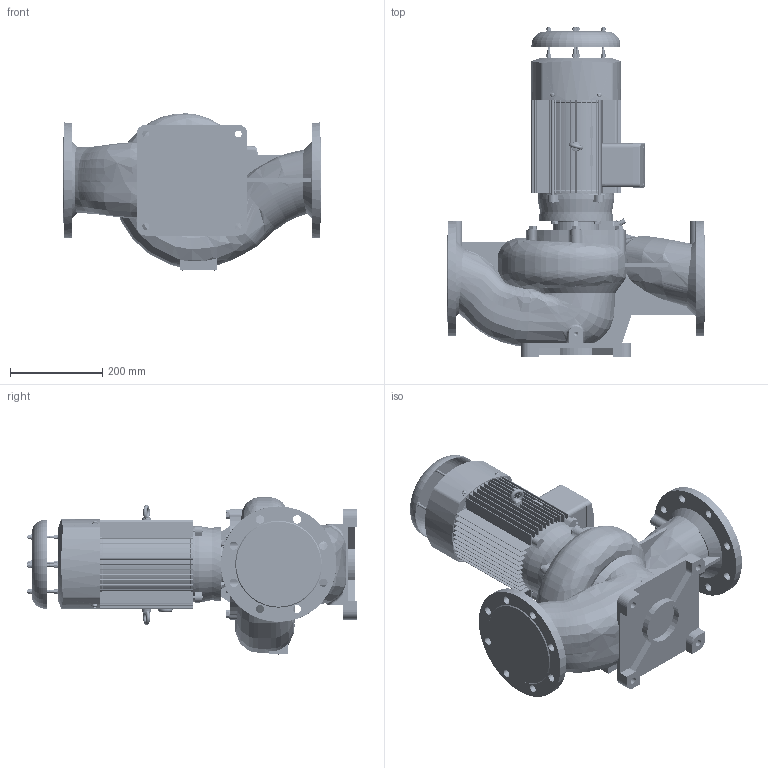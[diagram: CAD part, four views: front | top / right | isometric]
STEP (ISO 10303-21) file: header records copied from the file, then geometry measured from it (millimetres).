
FILE_DESCRIPTION (( 'STEP AP214' ), '1' );
FILE_NAME ('LLT125-5-4.STEP', '2020-08-28T01:13:40', ( 'cnp' ), ( '' ), 'SwSTEP 2.0', 'SolidWorks 2018', '' );
FILE_SCHEMA (( 'AUTOMOTIVE_DESIGN' ));
Length unit declared in the file: millimetre
Products named in the file (31): GB╱T 5783-2016[六角头螺栓 全螺纹M10×35]; YE3-100-IMV18 萇儂 滅迾欶; GB╱T 5783-2016[六角头螺栓 全螺纹M8×30]; LLT100掙芛; LLT125; 平垫圈8; LLT125-5-4; GB╱T 5783-2016[六角头螺栓 全螺纹M8×30]_M8×30; 平垫圈10; GB╱T 5783-2016[六角头螺栓 全螺纹M10×35]_M10×35
Assembly tree (23 placements, depth 2):
  GB╱T 5783-2016[六角头螺栓 全螺纹M10×35]
  YE3-100-IMV18 萇儂 滅迾欶
  GB╱T 5783-2016[六角头螺栓 全螺纹M8×30]
  LLT100掙芛
  GB╱T 5783-2016[六角头螺栓 全螺纹M8×30]
Bounding box: 560 x 714.96 x 340.67 mm (x, y, z)
Volume: 23005190.8 mm3; surface area: 2250892.1 mm2
Topology: 100 solids, 100 shells, 5896 faces, 15776 edges, 10396 vertices
Faces by surface type: plane 3089, bspline 1127, cylinder 1020, cone 573, torus 77, sphere 10
Full cylindrical faces by diameter (mm): 1.1 x1, 1.3 x1, 2 x7, 3 x1, 3.3 x8, 3.4 x4, 4 x4, 4.2 x3, 4.25 x4, 4.5 x4, 5 x29, 5.196 x4, 5.3 x4, 5.5 x2, 6 x251, 6.4 x16, 6.5 x4, 6.6 x4, 6.75 x6, 6.8 x4, 8 x12, 8.4 x4, 8.5 x7, 9 x9, 9.5 x4, 10 x11, 10.5 x6, 11 x1, 11.8 x2, 12 x28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
Entity records: 306328 total; most frequent: CARTESIAN_POINT 109882, ORIENTED_EDGE 29206, DIRECTION 22882, EDGE_CURVE 14603, VERTEX_POINT 10047, VECTOR 8258, LINE 8258, EDGE_LOOP 7376
